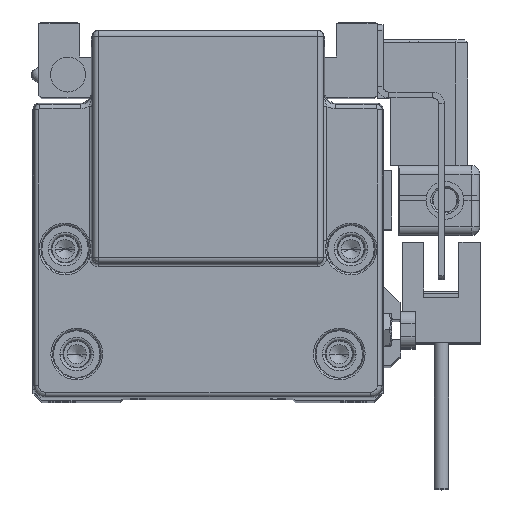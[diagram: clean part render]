
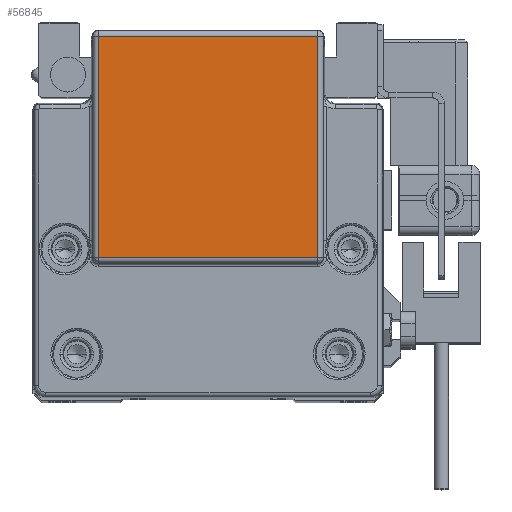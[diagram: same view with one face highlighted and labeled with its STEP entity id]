
A CAD part, top view. The second image highlights one B-rep face of the part: STEP entity #56845.
In plain terms, the highlighted planar face has unit normal (0, 0, 1) as drawn and (0, 0, -1) by its records, which use the part's own axes.
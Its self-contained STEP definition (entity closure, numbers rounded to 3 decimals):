
#1601 = CARTESIAN_POINT ( 'NONE',  ( 19., 24.518, -143. ) ) ;
#1660 = EDGE_CURVE ( 'NONE', #8260, #50551, #23751, .T. ) ;
#2032 = DIRECTION ( 'NONE',  ( 0., -1., 0. ) ) ;
#2630 = LINE ( 'NONE', #34179, #46538 ) ;
#4348 = EDGE_CURVE ( 'NONE', #48176, #14717, #6458, .T. ) ;
#5617 = CARTESIAN_POINT ( 'NONE',  ( 18.808, 24.5, -143. ) ) ;
#6458 = LINE ( 'NONE', #38006, #25094 ) ;
#7246 = DIRECTION ( 'NONE',  ( 0., 1., 0. ) ) ;
#8260 = VERTEX_POINT ( 'NONE', #11625 ) ;
#11625 = CARTESIAN_POINT ( 'NONE',  ( -18.808, 24.518, -143. ) ) ;
#13007 = ORIENTED_EDGE ( 'NONE', *, *, #45667, .F. ) ;
#14348 = CARTESIAN_POINT ( 'NONE',  ( 18.808, 62.447, -143. ) ) ;
#14717 = VERTEX_POINT ( 'NONE', #14348 ) ;
#15044 = DIRECTION ( 'NONE',  ( 1., 0., 0. ) ) ;
#18813 = ORIENTED_EDGE ( 'NONE', *, *, #48481, .F. ) ;
#19644 = DIRECTION ( 'NONE',  ( 1., 0., 0. ) ) ;
#23585 = EDGE_LOOP ( 'NONE', ( #13007, #47173, #18813, #57641 ) ) ;
#23751 = LINE ( 'NONE', #1601, #45577 ) ;
#25094 = VECTOR ( 'NONE', #15044, 1000. ) ;
#25772 = AXIS2_PLACEMENT_3D ( 'NONE', #34076, #48761, #7246 ) ;
#31326 = PLANE ( 'NONE',  #25772 ) ;
#34076 = CARTESIAN_POINT ( 'NONE',  ( 19., 24.5, -143. ) ) ;
#34179 = CARTESIAN_POINT ( 'NONE',  ( -18.808, 31., -143. ) ) ;
#36890 = LINE ( 'NONE', #5617, #54899 ) ;
#38006 = CARTESIAN_POINT ( 'NONE',  ( 19., 62.447, -143. ) ) ;
#39895 = FACE_OUTER_BOUND ( 'NONE', #23585, .T. ) ;
#45454 = DIRECTION ( 'NONE',  ( 0., 1., 0. ) ) ;
#45577 = VECTOR ( 'NONE', #19644, 1000. ) ;
#45667 = EDGE_CURVE ( 'NONE', #50551, #14717, #36890, .T. ) ;
#46538 = VECTOR ( 'NONE', #2032, 1000. ) ;
#47173 = ORIENTED_EDGE ( 'NONE', *, *, #1660, .F. ) ;
#48176 = VERTEX_POINT ( 'NONE', #51100 ) ;
#48481 = EDGE_CURVE ( 'NONE', #48176, #8260, #2630, .T. ) ;
#48761 = DIRECTION ( 'NONE',  ( 0., 0., -1. ) ) ;
#50551 = VERTEX_POINT ( 'NONE', #58079 ) ;
#51100 = CARTESIAN_POINT ( 'NONE',  ( -18.808, 62.447, -143. ) ) ;
#54899 = VECTOR ( 'NONE', #45454, 1000. ) ;
#56845 = ADVANCED_FACE ( 'NONE', ( #39895 ), #31326, .T. ) ;
#57641 = ORIENTED_EDGE ( 'NONE', *, *, #4348, .T. ) ;
#58079 = CARTESIAN_POINT ( 'NONE',  ( 18.808, 24.518, -143. ) ) ;
